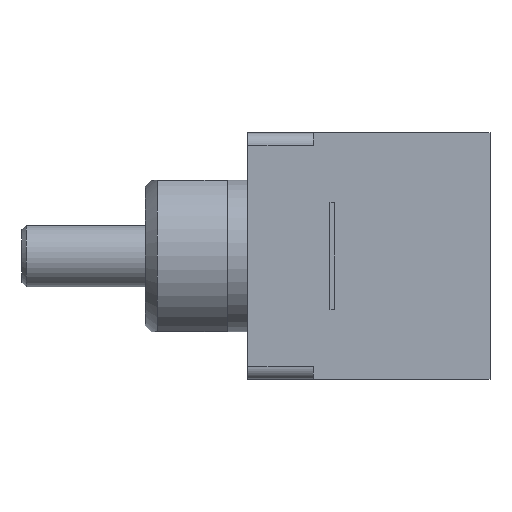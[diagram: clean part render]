
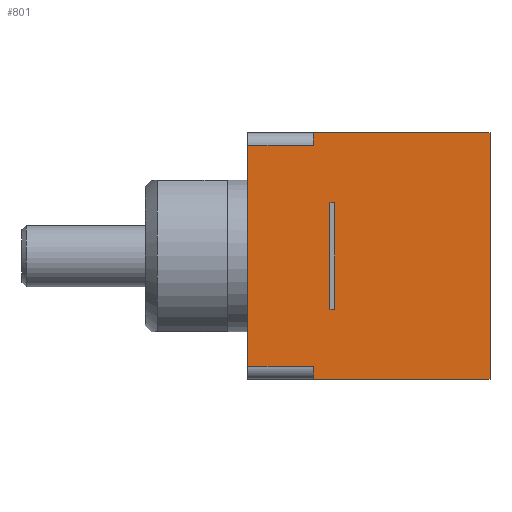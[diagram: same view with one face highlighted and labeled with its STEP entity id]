
A CAD part, front view. The second image highlights one B-rep face of the part: STEP entity #801.
In plain terms, the highlighted planar face has unit normal (0, -1, 0).
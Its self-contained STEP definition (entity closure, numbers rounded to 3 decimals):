
#801=ADVANCED_FACE('',(#1290,#1291),#1292,.T.);
#1290=FACE_BOUND('',#1725,.T.);
#1291=FACE_OUTER_BOUND('',#1726,.T.);
#1292=PLANE('',#1727);
#1725=EDGE_LOOP('',(#2583,#2584,#2585,#2586));
#1726=EDGE_LOOP('',(#2587,#2588,#2589,#2590,#2591,#2592,#2593,#2594));
#1727=AXIS2_PLACEMENT_3D('',#2595,#2596,#2597);
#2583=ORIENTED_EDGE('',*,*,#3006,.F.);
#2584=ORIENTED_EDGE('',*,*,#2872,.T.);
#2585=ORIENTED_EDGE('',*,*,#2797,.F.);
#2586=ORIENTED_EDGE('',*,*,#2945,.F.);
#2587=ORIENTED_EDGE('',*,*,#3023,.F.);
#2588=ORIENTED_EDGE('',*,*,#2887,.F.);
#2589=ORIENTED_EDGE('',*,*,#2824,.T.);
#2590=ORIENTED_EDGE('',*,*,#3019,.F.);
#2591=ORIENTED_EDGE('',*,*,#3025,.T.);
#2592=ORIENTED_EDGE('',*,*,#2904,.F.);
#2593=ORIENTED_EDGE('',*,*,#2965,.F.);
#2594=ORIENTED_EDGE('',*,*,#2821,.F.);
#2595=CARTESIAN_POINT('',(3.2,-3.0,0.));
#2596=DIRECTION('',(0.0,-1.0,0.));
#2597=DIRECTION('',(-1.0,0.0,0.0));
#2797=EDGE_CURVE('',#3207,#3210,#3211,.T.);
#2821=EDGE_CURVE('',#3248,#3245,#3250,.T.);
#2824=EDGE_CURVE('',#3255,#3252,#3256,.T.);
#2872=EDGE_CURVE('',#3335,#3210,#3336,.T.);
#2887=EDGE_CURVE('',#3255,#3361,#3362,.T.);
#2904=EDGE_CURVE('',#3384,#3379,#3386,.T.);
#2945=EDGE_CURVE('',#3443,#3207,#3445,.T.);
#2965=EDGE_CURVE('',#3245,#3384,#3470,.T.);
#3006=EDGE_CURVE('',#3335,#3443,#3524,.T.);
#3019=EDGE_CURVE('',#3538,#3252,#3539,.T.);
#3023=EDGE_CURVE('',#3361,#3248,#3543,.T.);
#3025=EDGE_CURVE('',#3538,#3379,#3545,.T.);
#3207=VERTEX_POINT('',#4042);
#3210=VERTEX_POINT('',#4045);
#3211=LINE('',#4046,#4047);
#3245=VERTEX_POINT('',#4092);
#3248=VERTEX_POINT('',#4096);
#3250=LINE('',#4098,#4099);
#3252=VERTEX_POINT('',#4101);
#3255=VERTEX_POINT('',#4104);
#3256=LINE('',#4105,#4106);
#3335=VERTEX_POINT('',#4209);
#3336=LINE('',#4210,#4211);
#3361=VERTEX_POINT('',#4245);
#3362=LINE('',#4246,#4247);
#3379=VERTEX_POINT('',#4266);
#3384=VERTEX_POINT('',#4274);
#3386=LINE('',#4277,#4278);
#3443=VERTEX_POINT('',#4348);
#3445=LINE('',#4350,#4351);
#3470=LINE('',#4381,#4382);
#3524=LINE('',#4446,#4447);
#3538=VERTEX_POINT('',#4466);
#3539=LINE('',#4467,#4468);
#3543=LINE('',#4473,#4474);
#3545=LINE('',#4476,#4477);
#4042=CARTESIAN_POINT('',(4.497,-3.0,-1.088));
#4045=CARTESIAN_POINT('',(4.617,-3.0,-1.088));
#4046=CARTESIAN_POINT('',(4.617,-3.0,-1.088));
#4047=VECTOR('',#4596,1.0);
#4092=CARTESIAN_POINT('',(4.1,-3.0,3.0));
#4096=CARTESIAN_POINT('',(4.1,-3.0,2.7));
#4098=CARTESIAN_POINT('',(4.1,-3.0,0.));
#4099=VECTOR('',#4627,1.0);
#4101=CARTESIAN_POINT('',(4.1,-3.0,-2.7));
#4104=CARTESIAN_POINT('',(2.5,-3.0,-2.7));
#4105=CARTESIAN_POINT('',(3.2,-3.0,-2.7));
#4106=VECTOR('',#4631,1.0);
#4209=CARTESIAN_POINT('',(4.617,-3.0,1.088));
#4210=CARTESIAN_POINT('',(4.617,-3.0,0.));
#4211=VECTOR('',#4689,1.0);
#4245=CARTESIAN_POINT('',(2.5,-3.0,2.7));
#4246=CARTESIAN_POINT('',(2.5,-3.0,0.0));
#4247=VECTOR('',#4705,1.0);
#4266=CARTESIAN_POINT('',(8.4,-3.0,-3.0));
#4274=CARTESIAN_POINT('',(8.4,-3.0,3.0));
#4277=CARTESIAN_POINT('',(8.4,-3.0,0.));
#4278=VECTOR('',#4730,1.0);
#4348=CARTESIAN_POINT('',(4.497,-3.0,1.088));
#4350=CARTESIAN_POINT('',(4.497,-3.0,0.));
#4351=VECTOR('',#4798,1.0);
#4381=CARTESIAN_POINT('',(4.1,-3.0,3.0));
#4382=VECTOR('',#4822,1.0);
#4446=CARTESIAN_POINT('',(4.617,-3.0,1.088));
#4447=VECTOR('',#4881,1.0);
#4466=CARTESIAN_POINT('',(4.1,-3.0,-3.0));
#4467=CARTESIAN_POINT('',(4.1,-3.0,0.));
#4468=VECTOR('',#4896,1.0);
#4473=CARTESIAN_POINT('',(3.2,-3.0,2.7));
#4474=VECTOR('',#4898,1.0);
#4476=CARTESIAN_POINT('',(4.1,-3.0,-3.0));
#4477=VECTOR('',#4899,1.0);
#4596=DIRECTION('',(1.0,0.,0.));
#4627=DIRECTION('',(0.0,0.,1.0));
#4631=DIRECTION('',(1.0,0.0,0.0));
#4689=DIRECTION('',(0.,0.,-1.0));
#4705=DIRECTION('',(0.0,0.,1.0));
#4730=DIRECTION('',(0.0,0.,-1.0));
#4798=DIRECTION('',(0.,0.,-1.0));
#4822=DIRECTION('',(1.0,0.0,0.0));
#4881=DIRECTION('',(-1.0,0.,0.));
#4896=DIRECTION('',(0.0,0.,1.0));
#4898=DIRECTION('',(1.0,0.0,0.0));
#4899=DIRECTION('',(1.0,0.0,0.0));
